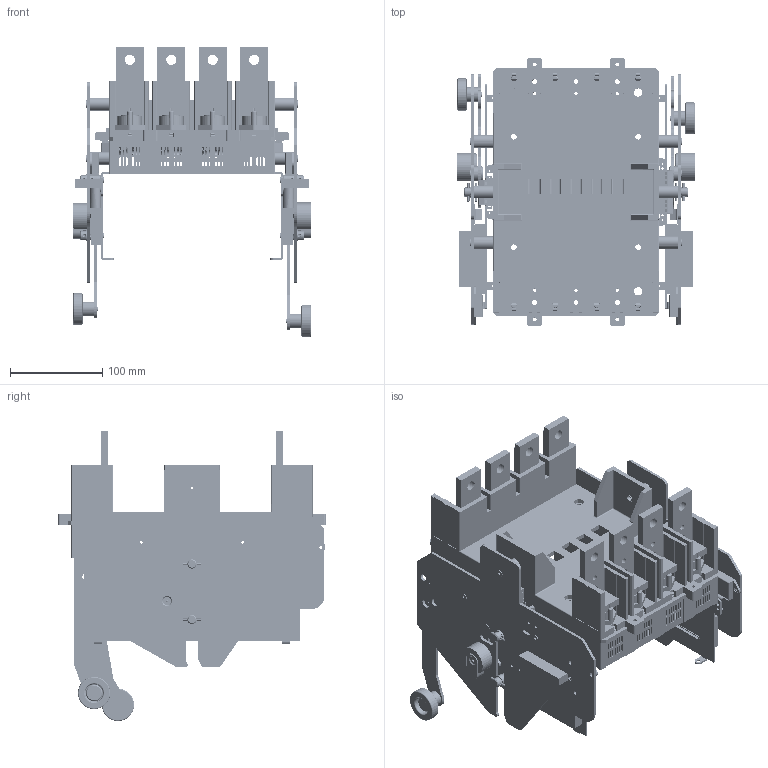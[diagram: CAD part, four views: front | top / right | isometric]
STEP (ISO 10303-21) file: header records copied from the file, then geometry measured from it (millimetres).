
FILE_DESCRIPTION (( 'STEP AP203' ), '1' );
FILE_NAME ('NDM5-630喲堤宒 -侐憤.STEP', '2024-11-05T01:28:56', ( 'A' ), ( '' ), 'SwSTEP 2.0', 'SolidWorks 2018', '' );
FILE_SCHEMA (( 'CONFIG_CONTROL_DESIGN' ));
Length unit declared in the file: millimetre
Products named in the file (48): WF8.205.716-2; WF8.151.502-2; WF8.024.769; WF8.724.502-2; 揖芛630-3; WF5.540-2; WF8.100.644-2; 3WF8.024.779; WF8.724.500; WL8.024.770; 5憤狟傷赽; WF8.205.717; 槳啣1-2; 3WF5.253.511-2; WL8.551.029; 3WL8.050.NDM5-2; 3WF5.253.510-2; 揖芛630-2; WF8.205.715-2; WL8.300.044; 325.037; 3WF8.253.537-2; WL8.100.258; 3WL8.135.020-2; 3WF8.253.533-2; WL8.551.034; 2WL5.024.200GG; WF8.253.534-2; 3WF8.253.532-2; 9憤狟傷赽; WF5.540-1; 槳啣2-2; NDM5-630喲堤宒 -侐憤; 揖芛630-5; WF8.205.713-2; WL8.205.288-2; 揖芛630; 耜啣2-2; 耜啣1-2; WF5.540-3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
Assembly tree (219 placements, depth 4):
  NDM5-630喲堤宒 -侐憤
    揖芛630
      WL8.551.034  x20
      WL8.100.258
      WL8.551.029
    揖芛630-1
      WL8.551.034  x20
      WL8.100.258
      WL8.551.029
    揖芛630-2
      WL8.551.034  x20
      WL8.100.258
      WL8.551.029
    揖芛630-3
      WL8.551.034  x20
      WL8.100.258
      WL8.551.029
    揖芛630-4
      WL8.551.034  x20
      WL8.100.258
      WL8.551.029
    揖芛630-5
      WL8.551.034  x20
      WL8.100.258
      WL8.551.029
    槳啣1-2
      3WF5.253.511-2
        3WF8.253.532-2
        WF8.253.534-2
        WF8.205.716-2
        WF8.969.504-2
      3WL8.135.020-2
      WF8.205.713-2
      WF8.151.502-2
      WF8.205.715-2  x3
      3WF8.253.533-2
      WF8.724.502-2
      WF8.205.719-2
      WL8.024.770
      3WF8.024.779
    槳啣2-2
      3WF5.253.510-2
        3WF8.253.532-2
        WF8.253.534-2
        WF8.205.716-2
        WF8.969.504-2
      WF8.205.713-2
      WF8.151.502-2
      WF8.724.502-2
      WF8.205.719-2
      WL8.024.770
      3WF8.024.779
      3WL8.135.021-2
      WL8.205.288-2  x3
      3WF8.253.537-2
    耜啣2-2
      WF5.540
        WF8.205.717
        WF8.724.500
        幗渀2.5X20  x2
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Bounding box: 258 x 291 x 315.14 mm (x, y, z)
Volume: 1787422.9 mm3; surface area: 976739.1 mm2
Topology: 207 solids, 207 shells, 8568 faces, 23251 edges, 15284 vertices
Faces by surface type: plane 4646, cylinder 3610, torus 110, bspline 104, cone 92, sphere 6
Entity records: 122196 total; most frequent: CARTESIAN_POINT 22091, DIRECTION 19194, ORIENTED_EDGE 18716, EDGE_CURVE 9358, LINE 6506, VECTOR 6506, AXIS2_PLACEMENT_3D 6344, VERTEX_POINT 6105
